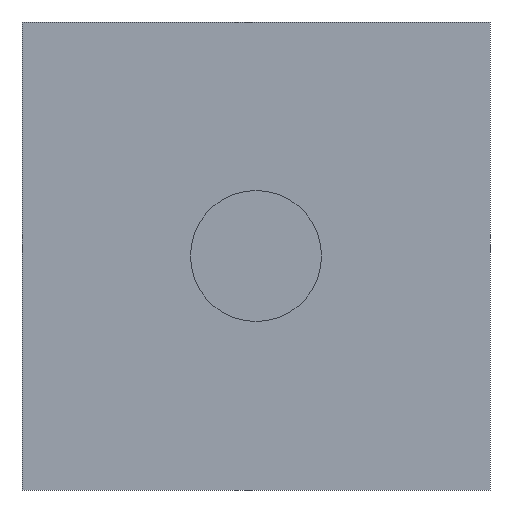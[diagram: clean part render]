
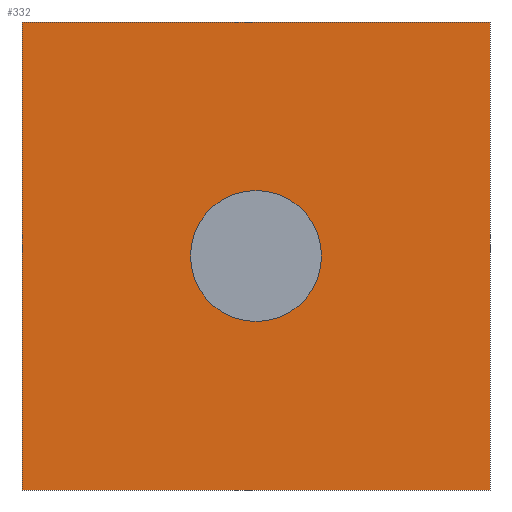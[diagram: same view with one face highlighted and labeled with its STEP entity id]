
A CAD part, left-side view. The second image highlights one B-rep face of the part: STEP entity #332.
In plain terms, the highlighted planar face has unit normal (-1, 0, 0).
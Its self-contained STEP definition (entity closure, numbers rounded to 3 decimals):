
#31=DIRECTION('',(0.,0.,1.));
#32=VECTOR('',#31,75.);
#33=CARTESIAN_POINT('',(25.,-37.5,-37.5));
#34=LINE('',#33,#32);
#35=DIRECTION('',(0.,-1.,0.));
#36=VECTOR('',#35,75.);
#37=CARTESIAN_POINT('',(25.,37.5,-37.5));
#38=LINE('',#37,#36);
#39=DIRECTION('',(0.,0.,-1.));
#40=VECTOR('',#39,75.);
#41=CARTESIAN_POINT('',(25.,37.5,37.5));
#42=LINE('',#41,#40);
#43=DIRECTION('',(0.,1.,0.));
#44=VECTOR('',#43,75.);
#45=CARTESIAN_POINT('',(25.,-37.5,37.5));
#46=LINE('',#45,#44);
#47=CARTESIAN_POINT('',(25.,0.,0.));
#48=DIRECTION('',(-1.,0.,0.));
#49=DIRECTION('',(0.,1.,0.));
#50=AXIS2_PLACEMENT_3D('',#47,#48,#49);
#52=CARTESIAN_POINT('',(25.,0.,0.));
#53=DIRECTION('',(1.,0.,0.));
#54=DIRECTION('',(0.,1.,0.));
#55=AXIS2_PLACEMENT_3D('',#52,#53,#54);
#219=CARTESIAN_POINT('',(25.,10.5,0.));
#220=CARTESIAN_POINT('',(25.,-10.5,0.));
#221=VERTEX_POINT('',#219);
#222=VERTEX_POINT('',#220);
#227=CARTESIAN_POINT('',(25.,-37.5,-37.5));
#228=CARTESIAN_POINT('',(25.,-37.5,37.5));
#229=VERTEX_POINT('',#227);
#230=VERTEX_POINT('',#228);
#231=CARTESIAN_POINT('',(25.,37.5,37.5));
#232=VERTEX_POINT('',#231);
#233=CARTESIAN_POINT('',(25.,37.5,-37.5));
#234=VERTEX_POINT('',#233);
#312=CARTESIAN_POINT('',(25.,0.,0.));
#313=DIRECTION('',(-1.,0.,0.));
#314=DIRECTION('',(0.,1.,0.));
#315=AXIS2_PLACEMENT_3D('',#312,#313,#314);
#316=PLANE('',#315);
#317=ORIENTED_EDGE('',*,*,#302,.F.);
#319=ORIENTED_EDGE('',*,*,#318,.F.);
#321=ORIENTED_EDGE('',*,*,#320,.F.);
#323=ORIENTED_EDGE('',*,*,#322,.F.);
#324=EDGE_LOOP('',(#317,#319,#321,#323));
#325=FACE_OUTER_BOUND('',#324,.F.);
#327=ORIENTED_EDGE('',*,*,#326,.T.);
#329=ORIENTED_EDGE('',*,*,#328,.F.);
#330=EDGE_LOOP('',(#327,#329));
#331=FACE_BOUND('',#330,.F.);
#332=ADVANCED_FACE('',(#325,#331),#316,.T.);
#51=CIRCLE('',#50,10.5);
#56=CIRCLE('',#55,10.5);
#302=EDGE_CURVE('',#229,#230,#34,.T.);
#318=EDGE_CURVE('',#234,#229,#38,.T.);
#320=EDGE_CURVE('',#232,#234,#42,.T.);
#322=EDGE_CURVE('',#230,#232,#46,.T.);
#326=EDGE_CURVE('',#221,#222,#51,.T.);
#328=EDGE_CURVE('',#221,#222,#56,.T.);
